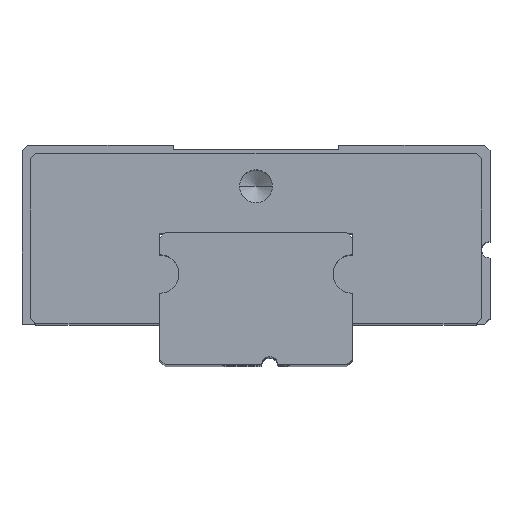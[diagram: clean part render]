
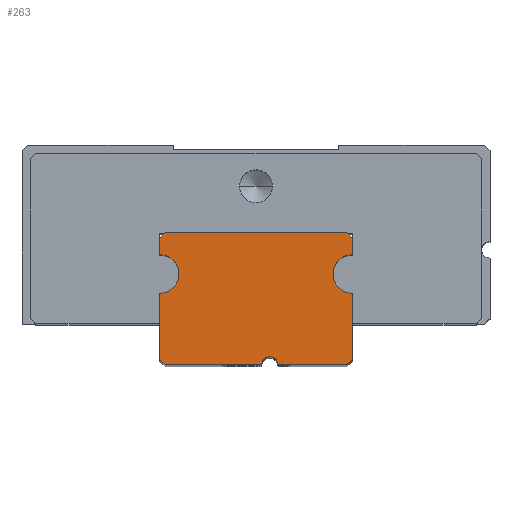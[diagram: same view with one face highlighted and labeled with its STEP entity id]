
A CAD part, top view. The second image highlights one B-rep face of the part: STEP entity #263.
In plain terms, the highlighted planar face has unit normal (0, 0, 1).
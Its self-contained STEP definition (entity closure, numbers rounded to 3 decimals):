
#3 = EDGE_CURVE ( 'NONE', #2065, #2253, #3709, .T. ) ;
#4 = DIRECTION ( 'NONE',  ( 0., 0., -1. ) ) ;
#53 = EDGE_CURVE ( 'NONE', #2730, #3798, #4312, .T. ) ;
#109 = VERTEX_POINT ( 'NONE', #1544 ) ;
#111 = EDGE_CURVE ( 'NONE', #2961, #1789, #3759, .T. ) ;
#149 = VECTOR ( 'NONE', #2690, 1000. ) ;
#205 = ORIENTED_EDGE ( 'NONE', *, *, #4671, .F. ) ;
#231 = CARTESIAN_POINT ( 'NONE',  ( -3.5, 0., 20. ) ) ;
#263 = ADVANCED_FACE ( 'NONE', ( #1298 ), #599, .F. ) ;
#276 = VERTEX_POINT ( 'NONE', #2471 ) ;
#303 = LINE ( 'NONE', #4894, #3206 ) ;
#335 = EDGE_CURVE ( 'NONE', #109, #3583, #303, .T. ) ;
#477 = AXIS2_PLACEMENT_3D ( 'NONE', #3155, #1961, #4696 ) ;
#527 = CARTESIAN_POINT ( 'NONE',  ( 3.5, 0., 20. ) ) ;
#599 = PLANE ( 'NONE',  #1279 ) ;
#674 = EDGE_CURVE ( 'NONE', #3361, #2730, #2771, .T. ) ;
#678 = ORIENTED_EDGE ( 'NONE', *, *, #2444, .F. ) ;
#772 = CARTESIAN_POINT ( 'NONE',  ( 3.5, 4.6, 20. ) ) ;
#883 = CIRCLE ( 'NONE', #477, 0.7 ) ;
#952 = DIRECTION ( 'NONE',  ( 0., 0., -1. ) ) ;
#956 = VECTOR ( 'NONE', #2025, 1000. ) ;
#960 = ORIENTED_EDGE ( 'NONE', *, *, #4020, .F. ) ;
#988 = CARTESIAN_POINT ( 'NONE',  ( 0.8, 0., 20. ) ) ;
#1054 = DIRECTION ( 'NONE',  ( -1., 0., 0. ) ) ;
#1101 = DIRECTION ( 'NONE',  ( -1., 0., 0. ) ) ;
#1108 = LINE ( 'NONE', #1917, #1882 ) ;
#1180 = LINE ( 'NONE', #3830, #2426 ) ;
#1244 = LINE ( 'NONE', #527, #2731 ) ;
#1279 = AXIS2_PLACEMENT_3D ( 'NONE', #3232, #952, #4798 ) ;
#1294 = VERTEX_POINT ( 'NONE', #1998 ) ;
#1298 = FACE_OUTER_BOUND ( 'NONE', #3484, .T. ) ;
#1373 = CARTESIAN_POINT ( 'NONE',  ( 3.5, 0.2, 20. ) ) ;
#1397 = CARTESIAN_POINT ( 'NONE',  ( -3.3, 0., 20. ) ) ;
#1402 = CARTESIAN_POINT ( 'NONE',  ( -3.5, 0.2, 20. ) ) ;
#1436 = CARTESIAN_POINT ( 'NONE',  ( 3.5, 0.2, 20. ) ) ;
#1442 = DIRECTION ( 'NONE',  ( 0., 1., 0. ) ) ;
#1463 = AXIS2_PLACEMENT_3D ( 'NONE', #3461, #4, #3380 ) ;
#1487 = VERTEX_POINT ( 'NONE', #1510 ) ;
#1510 = CARTESIAN_POINT ( 'NONE',  ( 3.5, 2.6, 20. ) ) ;
#1541 = EDGE_CURVE ( 'NONE', #1294, #276, #4862, .T. ) ;
#1544 = CARTESIAN_POINT ( 'NONE',  ( 3.3, 4.8, 20. ) ) ;
#1621 = ORIENTED_EDGE ( 'NONE', *, *, #53, .F. ) ;
#1685 = DIRECTION ( 'NONE',  ( 0., -1., 0. ) ) ;
#1695 = CARTESIAN_POINT ( 'NONE',  ( -3.5, 2.6, 20. ) ) ;
#1747 = CARTESIAN_POINT ( 'NONE',  ( -3.3, 0., 20. ) ) ;
#1789 = VERTEX_POINT ( 'NONE', #1397 ) ;
#1882 = VECTOR ( 'NONE', #3440, 1000. ) ;
#1884 = ORIENTED_EDGE ( 'NONE', *, *, #3240, .T. ) ;
#1901 = AXIS2_PLACEMENT_3D ( 'NONE', #2084, #2811, #3284 ) ;
#1909 = VECTOR ( 'NONE', #1442, 1000. ) ;
#1916 = CARTESIAN_POINT ( 'NONE',  ( 0.5, 0., 20. ) ) ;
#1917 = CARTESIAN_POINT ( 'NONE',  ( -3.5, 0., 20. ) ) ;
#1961 = DIRECTION ( 'NONE',  ( 0., 0., -1. ) ) ;
#1964 = ORIENTED_EDGE ( 'NONE', *, *, #111, .F. ) ;
#1987 = VERTEX_POINT ( 'NONE', #988 ) ;
#1998 = CARTESIAN_POINT ( 'NONE',  ( 2.8, 3.3, 20. ) ) ;
#2025 = DIRECTION ( 'NONE',  ( 0.707, 0.707, 0. ) ) ;
#2065 = VERTEX_POINT ( 'NONE', #3369 ) ;
#2078 = EDGE_CURVE ( 'NONE', #276, #2683, #2219, .T. ) ;
#2084 = CARTESIAN_POINT ( 'NONE',  ( -3.5, 3.3, 20. ) ) ;
#2088 = CARTESIAN_POINT ( 'NONE',  ( 3.3, 4.8, 20. ) ) ;
#2146 = VECTOR ( 'NONE', #2514, 1000. ) ;
#2213 = VERTEX_POINT ( 'NONE', #1402 ) ;
#2219 = LINE ( 'NONE', #2620, #1909 ) ;
#2253 = VERTEX_POINT ( 'NONE', #1373 ) ;
#2287 = ORIENTED_EDGE ( 'NONE', *, *, #674, .F. ) ;
#2370 = VECTOR ( 'NONE', #2896, 1000. ) ;
#2426 = VECTOR ( 'NONE', #4676, 1000. ) ;
#2444 = EDGE_CURVE ( 'NONE', #1487, #2253, #1244, .T. ) ;
#2471 = CARTESIAN_POINT ( 'NONE',  ( 3.5, 4., 20. ) ) ;
#2514 = DIRECTION ( 'NONE',  ( 0., 1., 0. ) ) ;
#2588 = ORIENTED_EDGE ( 'NONE', *, *, #3760, .T. ) ;
#2620 = CARTESIAN_POINT ( 'NONE',  ( 3.5, 4., 20. ) ) ;
#2651 = LINE ( 'NONE', #3021, #3800 ) ;
#2683 = VERTEX_POINT ( 'NONE', #772 ) ;
#2690 = DIRECTION ( 'NONE',  ( -1., 0., 0. ) ) ;
#2698 = ORIENTED_EDGE ( 'NONE', *, *, #3115, .T. ) ;
#2730 = VERTEX_POINT ( 'NONE', #3969 ) ;
#2731 = VECTOR ( 'NONE', #1685, 1000. ) ;
#2735 = CARTESIAN_POINT ( 'NONE',  ( -3.3, 4.8, 20. ) ) ;
#2769 = CARTESIAN_POINT ( 'NONE',  ( -3.5, 4.6, 20. ) ) ;
#2771 = CIRCLE ( 'NONE', #1901, 0.7 ) ;
#2811 = DIRECTION ( 'NONE',  ( 0., 0., 1. ) ) ;
#2896 = DIRECTION ( 'NONE',  ( 0.707, -0.707, 0. ) ) ;
#2961 = VERTEX_POINT ( 'NONE', #3126 ) ;
#3002 = CARTESIAN_POINT ( 'NONE',  ( 3.5, 3.3, 20. ) ) ;
#3020 = EDGE_CURVE ( 'NONE', #1487, #1294, #883, .T. ) ;
#3021 = CARTESIAN_POINT ( 'NONE',  ( -3.5, 4.6, 20. ) ) ;
#3038 = ORIENTED_EDGE ( 'NONE', *, *, #1541, .T. ) ;
#3098 = DIRECTION ( 'NONE',  ( -0.707, -0.707, 0. ) ) ;
#3115 = EDGE_CURVE ( 'NONE', #3583, #3798, #2651, .T. ) ;
#3126 = CARTESIAN_POINT ( 'NONE',  ( 0.2, 0., 20. ) ) ;
#3155 = CARTESIAN_POINT ( 'NONE',  ( 3.5, 3.3, 20. ) ) ;
#3206 = VECTOR ( 'NONE', #1054, 1000. ) ;
#3232 = CARTESIAN_POINT ( 'NONE',  ( 0.5, 0., 20. ) ) ;
#3240 = EDGE_CURVE ( 'NONE', #2213, #1789, #4888, .T. ) ;
#3284 = DIRECTION ( 'NONE',  ( -1., 0., 0. ) ) ;
#3330 = AXIS2_PLACEMENT_3D ( 'NONE', #3002, #3358, #1101 ) ;
#3358 = DIRECTION ( 'NONE',  ( 0., 0., -1. ) ) ;
#3361 = VERTEX_POINT ( 'NONE', #1695 ) ;
#3369 = CARTESIAN_POINT ( 'NONE',  ( 3.3, 0., 20. ) ) ;
#3380 = DIRECTION ( 'NONE',  ( -1., 0., 0. ) ) ;
#3384 = ORIENTED_EDGE ( 'NONE', *, *, #3536, .F. ) ;
#3440 = DIRECTION ( 'NONE',  ( 0., 1., 0. ) ) ;
#3461 = CARTESIAN_POINT ( 'NONE',  ( 0.5, 0., 20. ) ) ;
#3484 = EDGE_LOOP ( 'NONE', ( #3852, #3038, #4577, #960, #4290, #2698, #1621, #2287, #3384, #1884, #1964, #2588, #205, #4419, #678 ) ) ;
#3536 = EDGE_CURVE ( 'NONE', #2213, #3361, #1108, .T. ) ;
#3583 = VERTEX_POINT ( 'NONE', #2735 ) ;
#3709 = LINE ( 'NONE', #1436, #956 ) ;
#3759 = LINE ( 'NONE', #1916, #149 ) ;
#3760 = EDGE_CURVE ( 'NONE', #2961, #1987, #4349, .T. ) ;
#3779 = VECTOR ( 'NONE', #4732, 1000. ) ;
#3798 = VERTEX_POINT ( 'NONE', #2769 ) ;
#3800 = VECTOR ( 'NONE', #3098, 1000. ) ;
#3830 = CARTESIAN_POINT ( 'NONE',  ( 0.5, 0., 20. ) ) ;
#3852 = ORIENTED_EDGE ( 'NONE', *, *, #3020, .T. ) ;
#3969 = CARTESIAN_POINT ( 'NONE',  ( -3.5, 4., 20. ) ) ;
#4020 = EDGE_CURVE ( 'NONE', #109, #2683, #4760, .T. ) ;
#4290 = ORIENTED_EDGE ( 'NONE', *, *, #335, .T. ) ;
#4312 = LINE ( 'NONE', #231, #2146 ) ;
#4349 = CIRCLE ( 'NONE', #1463, 0.3 ) ;
#4419 = ORIENTED_EDGE ( 'NONE', *, *, #3, .T. ) ;
#4577 = ORIENTED_EDGE ( 'NONE', *, *, #2078, .T. ) ;
#4671 = EDGE_CURVE ( 'NONE', #2065, #1987, #1180, .T. ) ;
#4676 = DIRECTION ( 'NONE',  ( -1., 0., 0. ) ) ;
#4696 = DIRECTION ( 'NONE',  ( -1., 0., 0. ) ) ;
#4732 = DIRECTION ( 'NONE',  ( 0.707, -0.707, 0. ) ) ;
#4760 = LINE ( 'NONE', #2088, #3779 ) ;
#4798 = DIRECTION ( 'NONE',  ( 0., -1., 0. ) ) ;
#4862 = CIRCLE ( 'NONE', #3330, 0.7 ) ;
#4888 = LINE ( 'NONE', #1747, #2370 ) ;
#4894 = CARTESIAN_POINT ( 'NONE',  ( 3.5, 4.8, 20. ) ) ;
